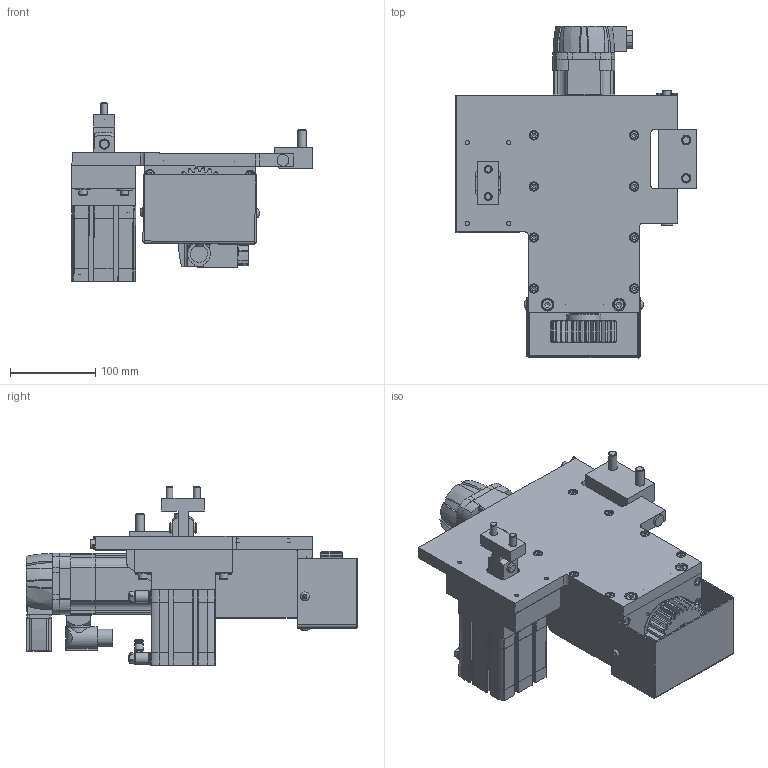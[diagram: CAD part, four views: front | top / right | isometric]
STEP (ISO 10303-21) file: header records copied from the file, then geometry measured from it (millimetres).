
FILE_DESCRIPTION(/* description */ (''),/* implementation_level */ '2;1');
FILE_NAME(/* name */ 'D:\Luboš_škola\Diplomka\FINAL\2020-01-S003.stp',/* time_stamp */ '2020-06-25T21:48:14+02:00',/* author */ ('Lubos'),/* organization */ (''),/* preprocessor_version */ 'ST-DEVELOPER v16.13',/* originating_system */ 'Autodesk Inventor 2018',/* authorisation */ '');
FILE_SCHEMA (('AUTOMOTIVE_DESIGN { 1 0 10303 214 3 1 1 }'));
Products named in the file (30): 2020-01-S003; Čelní ozubená kola; Čelní ozubené kolo1; 2020-01-0020; 2020-01-0021; 2020-01-0022; 2020-01-0023; 2020-01-0024; 2020-01-0025; 23730-01001220; 193143_GRLA-1_8-QS-4-D; 2020-01-0028; ISO 4762 - M6 x 35; ISO 4762 - M6 x 45; ISO 4762 - M8 x 20; ISO 4762 - M10 x 35; ISO 4762 - M8 x 25; DIN 9021 - 6,4; ISO 2338 - 8 h8 x 24; ISO 1234 - 2,5 x 20; 1FK7034-2AK71-1DH1-Z_J29_3D_cs; 2020-01-0029; BK 0610 16032; 2020-01-0030; 536295_ADN-63-40-A-P-A; 6145_SG-M12X125; 23730-01201410; ISO 4762 - M6 x 25; ISO 4762 - M5 x 20; JIS B 1174 - M6 x 12
Assembly tree (63 placements, depth 3):
  2020-01-S003
    Čelní ozubená kola
      Čelní ozubené kolo1
    2020-01-0020
    2020-01-0021  x2
    2020-01-0022
    2020-01-0023
    2020-01-0024
    2020-01-0025
    23730-01001220  x2
    193143_GRLA-1_8-QS-4-D  x2
    2020-01-0028
    ISO 4762 - M6 x 35  x4
    ISO 4762 - M6 x 45  x4
    ISO 4762 - M8 x 20  x2
    ISO 4762 - M10 x 35  x2
    ISO 4762 - M8 x 25  x2
    DIN 9021 - 6,4  x4
    ISO 2338 - 8 h8 x 24  x2
    ISO 1234 - 2,5 x 20
    1FK7034-2AK71-1DH1-Z_J29_3D_cs
    2020-01-0029
    BK 0610 16032
    2020-01-0030
    536295_ADN-63-40-A-P-A
    6145_SG-M12X125
    23730-01201410
    ISO 4762 - M6 x 25  x14
    ISO 4762 - M5 x 20  x4
    JIS B 1174 - M6 x 12  x3
Bounding box: 283.95 x 390.1 x 210.75 mm (x, y, z)
Volume: 3564935.8 mm3; surface area: 677910.9 mm2
Topology: 71 solids, 72 shells, 2563 faces, 6306 edges, 4056 vertices
Faces by surface type: plane 1262, cylinder 848, cone 278, torus 119, bspline 51, sphere 5
Full cylindrical faces by diameter (mm): 2 x2, 3 x3, 3.1 x4, 3.242 x6, 3.64 x2, 4 x6, 4.134 x5, 4.2 x4, 4.35 x4, 4.917 x25, 5 x4, 5.3 x1, 5.4 x2, 5.5 x4, 6 x25, 6.3 x2, 6.4 x4, 6.5 x4, 6.6 x18, 6.647 x10, 7 x11, 7.5 x4, 8 x14, 8.5 x4, 8.566 x2, 9 x4, 9.188 x1, 9.7 x2, 9.728 x2, 9.9 x2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
Entity records: 73085 total; most frequent: CARTESIAN_POINT 22653, DIRECTION 10559, ORIENTED_EDGE 9394, EDGE_CURVE 4697, AXIS2_PLACEMENT_3D 4132, VERTEX_POINT 3266, EDGE_LOOP 2721, LINE 2295
